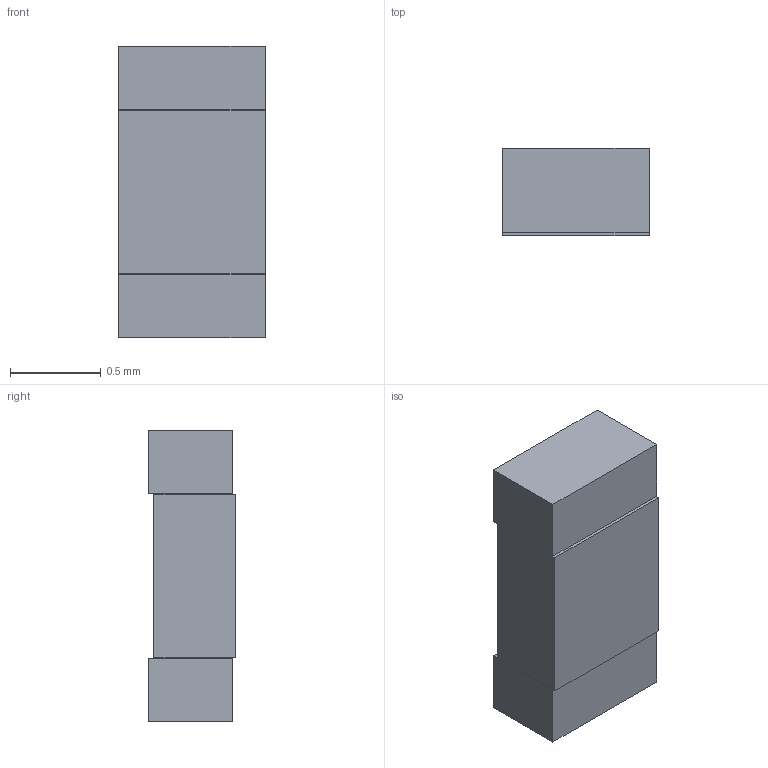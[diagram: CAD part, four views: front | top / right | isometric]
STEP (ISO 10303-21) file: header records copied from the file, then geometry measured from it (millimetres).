
FILE_DESCRIPTION(/* description */ (''),/* implementation_level */ '2;1');
FILE_NAME(/* name */ 'C:\Users\Hani\Desktop\work\F0603\F0603.stp',/* time_stamp */ '2022-02-18T13:56:31-08:00',/* author */ ('Hani'),/* organization */ (''),/* preprocessor_version */ 'ST-DEVELOPER v17',/* originating_system */ 'Autodesk Inventor 2019',/* authorisation */ '');
FILE_SCHEMA (('AUTOMOTIVE_DESIGN { 1 0 10303 214 3 1 1 }'));
Length unit declared in the file: inch
Products named in the file (1): F0603
Bounding box: 0.81 x 0.48 x 1.61 mm (x, y, z)
Volume: 0.6 mm3; surface area: 6.3 mm2
Topology: 3 solids, 3 shells, 154 faces, 408 edges, 272 vertices
Faces by surface type: plane 87, bspline 67
Entity records: 5330 total; most frequent: CARTESIAN_POINT 1891, ORIENTED_EDGE 816, DIRECTION 450, EDGE_CURVE 408, LINE 274, VECTOR 274, VERTEX_POINT 272, EDGE_LOOP 166
